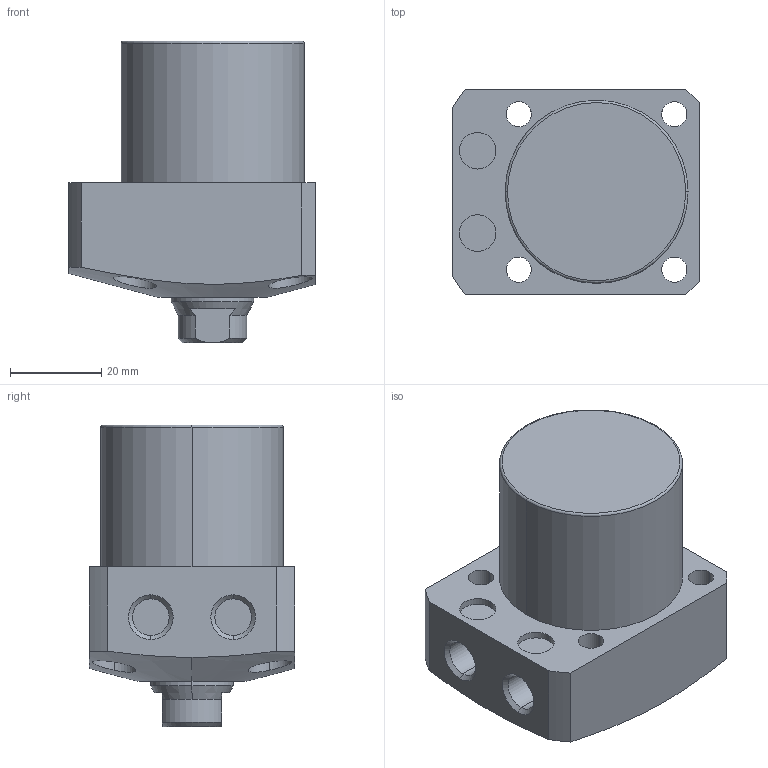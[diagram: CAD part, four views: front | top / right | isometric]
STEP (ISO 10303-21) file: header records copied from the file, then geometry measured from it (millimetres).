
FILE_DESCRIPTION (( 'STEP AP203' ), '1' );
FILE_NAME ('CLL-0400-CA-20.STEP', '2017-05-09T05:28:38', ( '' ), ( '' ), 'SwSTEP 2.0', 'SolidWorks 2015', '' );
FILE_SCHEMA (( 'CONFIG_CONTROL_DESIGN' ));
Length unit declared in the file: millimetre
Products named in the file (1): CLL-0400-CA-20
Bounding box: 54 x 45 x 66 mm (x, y, z)
Volume: 90401.8 mm3; surface area: 15794.8 mm2
Topology: 1 solids, 1 shells, 74 faces, 170 edges, 107 vertices
Faces by surface type: cylinder 35, plane 22, cone 15, torus 2
Entity records: 2512 total; most frequent: CARTESIAN_POINT 725, DIRECTION 374, ORIENTED_EDGE 336, EDGE_CURVE 168, AXIS2_PLACEMENT_3D 155, VERTEX_POINT 107, EDGE_LOOP 93, CIRCLE 80
